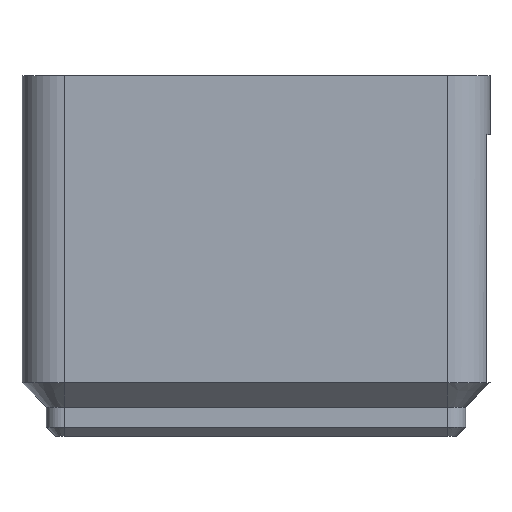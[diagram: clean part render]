
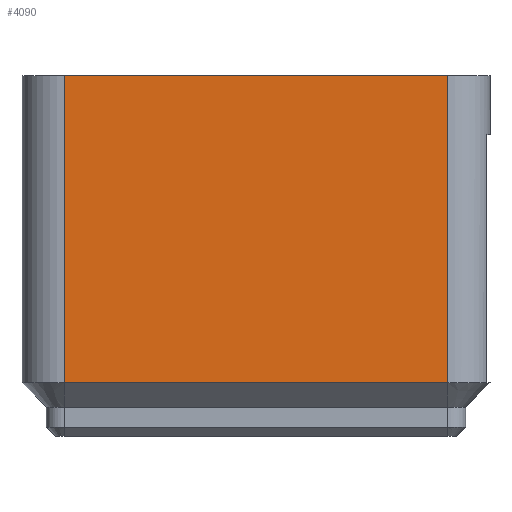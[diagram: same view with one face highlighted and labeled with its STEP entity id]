
A CAD part, left-side view. The second image highlights one B-rep face of the part: STEP entity #4090.
In plain terms, the highlighted planar face has unit normal (-1, 0, 0).
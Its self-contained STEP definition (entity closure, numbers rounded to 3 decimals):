
#2067 = CYLINDRICAL_SURFACE('',#2068,3.75);
#2068 = AXIS2_PLACEMENT_3D('',#2069,#2070,#2071);
#2069 = CARTESIAN_POINT('',(-17.,-17.,31.4));
#2070 = DIRECTION('',(0.,0.,-1.));
#2071 = DIRECTION('',(-1.,0.,0.));
#2880 = PLANE('',#2881);
#2881 = AXIS2_PLACEMENT_3D('',#2882,#2883,#2884);
#2882 = CARTESIAN_POINT('',(0.,0.,32.)
  );
#2883 = DIRECTION('',(0.,0.,1.));
#2884 = DIRECTION('',(1.,0.,-0.));
#2994 = VERTEX_POINT('',#2995);
#2995 = CARTESIAN_POINT('',(-20.75,-17.,32.));
#3021 = EDGE_CURVE('',#3022,#2994,#3024,.T.);
#3022 = VERTEX_POINT('',#3023);
#3023 = CARTESIAN_POINT('',(-20.75,-17.,4.75));
#3024 = SURFACE_CURVE('',#3025,(#3029,#3036),.PCURVE_S1.);
#3025 = LINE('',#3026,#3027);
#3026 = CARTESIAN_POINT('',(-20.75,-17.,4.75));
#3027 = VECTOR('',#3028,1.);
#3028 = DIRECTION('',(0.,0.,1.));
#3029 = PCURVE('',#2067,#3030);
#3030 = DEFINITIONAL_REPRESENTATION('',(#3031),#3035);
#3031 = LINE('',#3032,#3033);
#3032 = CARTESIAN_POINT('',(6.283,26.65));
#3033 = VECTOR('',#3034,1.);
#3034 = DIRECTION('',(0.,-1.));
#3035 = ( GEOMETRIC_REPRESENTATION_CONTEXT(2) 
PARAMETRIC_REPRESENTATION_CONTEXT() REPRESENTATION_CONTEXT('2D SPACE',''
  ) );
#3036 = PCURVE('',#3037,#3042);
#3037 = PLANE('',#3038);
#3038 = AXIS2_PLACEMENT_3D('',#3039,#3040,#3041);
#3039 = CARTESIAN_POINT('',(-20.75,-17.,31.4));
#3040 = DIRECTION('',(-1.,0.,0.));
#3041 = DIRECTION('',(0.,1.,0.));
#3042 = DEFINITIONAL_REPRESENTATION('',(#3043),#3047);
#3043 = LINE('',#3044,#3045);
#3044 = CARTESIAN_POINT('',(0.,26.65));
#3045 = VECTOR('',#3046,1.);
#3046 = DIRECTION('',(0.,-1.));
#3047 = ( GEOMETRIC_REPRESENTATION_CONTEXT(2) 
PARAMETRIC_REPRESENTATION_CONTEXT() REPRESENTATION_CONTEXT('2D SPACE',''
  ) );
#3681 = PLANE('',#3682);
#3682 = AXIS2_PLACEMENT_3D('',#3683,#3684,#3685);
#3683 = CARTESIAN_POINT('',(-20.75,0.,4.75));
#3684 = DIRECTION('',(-0.707,0.,-0.707));
#3685 = DIRECTION('',(0.,-1.,-0.));
#3977 = EDGE_CURVE('',#2994,#3978,#3980,.T.);
#3978 = VERTEX_POINT('',#3979);
#3979 = CARTESIAN_POINT('',(-20.75,17.,32.));
#3980 = SURFACE_CURVE('',#3981,(#3985,#3992),.PCURVE_S1.);
#3981 = LINE('',#3982,#3983);
#3982 = CARTESIAN_POINT('',(-20.75,0.,32.));
#3983 = VECTOR('',#3984,1.);
#3984 = DIRECTION('',(0.,1.,0.));
#3985 = PCURVE('',#2880,#3986);
#3986 = DEFINITIONAL_REPRESENTATION('',(#3987),#3991);
#3987 = LINE('',#3988,#3989);
#3988 = CARTESIAN_POINT('',(-20.75,0.));
#3989 = VECTOR('',#3990,1.);
#3990 = DIRECTION('',(0.,1.));
#3991 = ( GEOMETRIC_REPRESENTATION_CONTEXT(2) 
PARAMETRIC_REPRESENTATION_CONTEXT() REPRESENTATION_CONTEXT('2D SPACE',''
  ) );
#3992 = PCURVE('',#3037,#3993);
#3993 = DEFINITIONAL_REPRESENTATION('',(#3994),#3998);
#3994 = LINE('',#3995,#3996);
#3995 = CARTESIAN_POINT('',(17.,-0.6));
#3996 = VECTOR('',#3997,1.);
#3997 = DIRECTION('',(1.,0.));
#3998 = ( GEOMETRIC_REPRESENTATION_CONTEXT(2) 
PARAMETRIC_REPRESENTATION_CONTEXT() REPRESENTATION_CONTEXT('2D SPACE',''
  ) );
#4079 = CYLINDRICAL_SURFACE('',#4080,3.75);
#4080 = AXIS2_PLACEMENT_3D('',#4081,#4082,#4083);
#4081 = CARTESIAN_POINT('',(-17.,17.,31.4));
#4082 = DIRECTION('',(0.,0.,-1.));
#4083 = DIRECTION('',(-1.,0.,0.));
#4090 = ADVANCED_FACE('',(#4091),#3037,.T.);
#4091 = FACE_BOUND('',#4092,.T.);
#4092 = EDGE_LOOP('',(#4093,#4094,#4117,#4138));
#4093 = ORIENTED_EDGE('',*,*,#3977,.T.);
#4094 = ORIENTED_EDGE('',*,*,#4095,.T.);
#4095 = EDGE_CURVE('',#3978,#4096,#4098,.T.);
#4096 = VERTEX_POINT('',#4097);
#4097 = CARTESIAN_POINT('',(-20.75,17.,4.75));
#4098 = SURFACE_CURVE('',#4099,(#4103,#4110),.PCURVE_S1.);
#4099 = LINE('',#4100,#4101);
#4100 = CARTESIAN_POINT('',(-20.75,17.,32.));
#4101 = VECTOR('',#4102,1.);
#4102 = DIRECTION('',(0.,0.,-1.));
#4103 = PCURVE('',#3037,#4104);
#4104 = DEFINITIONAL_REPRESENTATION('',(#4105),#4109);
#4105 = LINE('',#4106,#4107);
#4106 = CARTESIAN_POINT('',(34.,-0.6));
#4107 = VECTOR('',#4108,1.);
#4108 = DIRECTION('',(0.,1.));
#4109 = ( GEOMETRIC_REPRESENTATION_CONTEXT(2) 
PARAMETRIC_REPRESENTATION_CONTEXT() REPRESENTATION_CONTEXT('2D SPACE',''
  ) );
#4110 = PCURVE('',#4079,#4111);
#4111 = DEFINITIONAL_REPRESENTATION('',(#4112),#4116);
#4112 = LINE('',#4113,#4114);
#4113 = CARTESIAN_POINT('',(0.,-0.6));
#4114 = VECTOR('',#4115,1.);
#4115 = DIRECTION('',(-0.,1.));
#4116 = ( GEOMETRIC_REPRESENTATION_CONTEXT(2) 
PARAMETRIC_REPRESENTATION_CONTEXT() REPRESENTATION_CONTEXT('2D SPACE',''
  ) );
#4117 = ORIENTED_EDGE('',*,*,#4118,.F.);
#4118 = EDGE_CURVE('',#3022,#4096,#4119,.T.);
#4119 = SURFACE_CURVE('',#4120,(#4124,#4131),.PCURVE_S1.);
#4120 = LINE('',#4121,#4122);
#4121 = CARTESIAN_POINT('',(-20.75,0.,4.75));
#4122 = VECTOR('',#4123,1.);
#4123 = DIRECTION('',(0.,1.,0.));
#4124 = PCURVE('',#3037,#4125);
#4125 = DEFINITIONAL_REPRESENTATION('',(#4126),#4130);
#4126 = LINE('',#4127,#4128);
#4127 = CARTESIAN_POINT('',(17.,26.65));
#4128 = VECTOR('',#4129,1.);
#4129 = DIRECTION('',(1.,0.));
#4130 = ( GEOMETRIC_REPRESENTATION_CONTEXT(2) 
PARAMETRIC_REPRESENTATION_CONTEXT() REPRESENTATION_CONTEXT('2D SPACE',''
  ) );
#4131 = PCURVE('',#3681,#4132);
#4132 = DEFINITIONAL_REPRESENTATION('',(#4133),#4137);
#4133 = LINE('',#4134,#4135);
#4134 = CARTESIAN_POINT('',(0.,0.));
#4135 = VECTOR('',#4136,1.);
#4136 = DIRECTION('',(-1.,0.));
#4137 = ( GEOMETRIC_REPRESENTATION_CONTEXT(2) 
PARAMETRIC_REPRESENTATION_CONTEXT() REPRESENTATION_CONTEXT('2D SPACE',''
  ) );
#4138 = ORIENTED_EDGE('',*,*,#3021,.T.);
